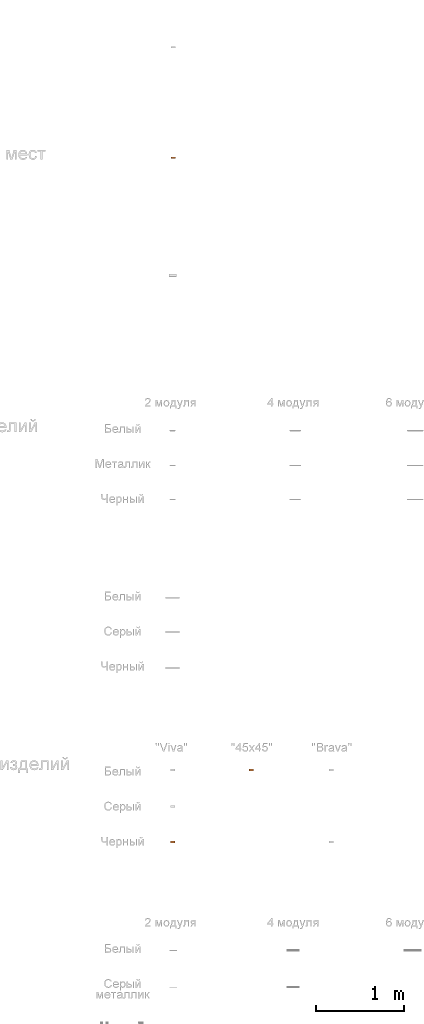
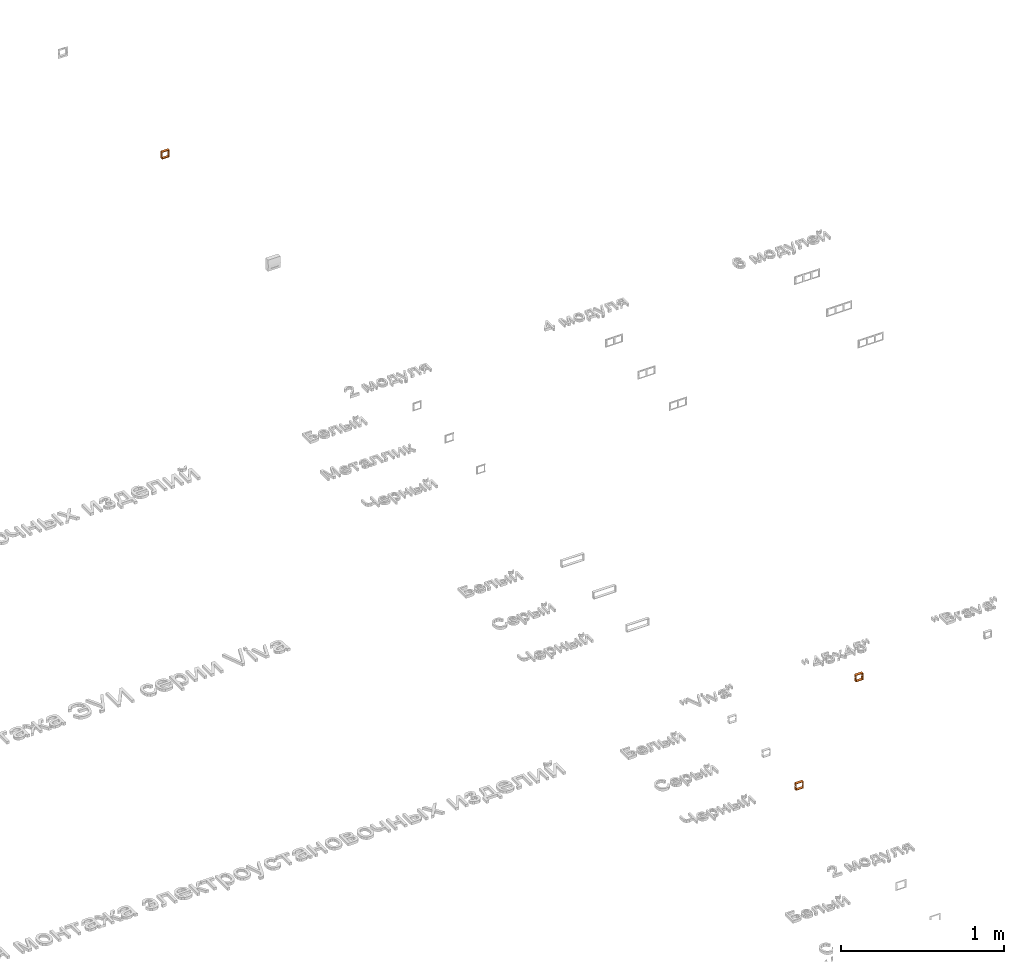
# One storey, part 74 of 87: 3 proxies.
"""IFC2X3 building model written with IfcOpenShell, lengths in millimetres."""

from ifc_helpers import new_model, entity, si_unit, converted_unit, derived_unit, direction, frame, origin, place, context, subcontext, project, spatial, polyline, outline, extrude, faceted_brep, source, transform, mapped, material, type_object, type_shapes, element, save


model = new_model("IFC2X3")

# Units and contexts
model_context = context("Model", 3, precision=0.01, world=origin(), true_north=direction((6.12303176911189e-17, 1.0)))
body_context = subcontext(model_context, "Body", "Model", "MODEL_VIEW")
ifc_project = project(units=[si_unit("LENGTHUNIT", "METRE", prefix="MILLI"), si_unit("AREAUNIT", "SQUARE_METRE"), si_unit("VOLUMEUNIT", "CUBIC_METRE"), converted_unit("PLANEANGLEUNIT", "DEGREE", entity("IfcRatioMeasure", 0.0174532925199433), si_unit("PLANEANGLEUNIT", "RADIAN"), dimensions=[0, 0, 0, 0, 0, 0, 0]), si_unit("MASSUNIT", "GRAM", prefix="KILO"), derived_unit("MASSDENSITYUNIT", [(si_unit("MASSUNIT", "GRAM", prefix="KILO"), 1), (si_unit("LENGTHUNIT", "METRE"), -3)]), si_unit("TIMEUNIT", "SECOND"), si_unit("FREQUENCYUNIT", "HERTZ"), si_unit("THERMODYNAMICTEMPERATUREUNIT", "DEGREE_CELSIUS"), derived_unit("THERMALTRANSMITTANCEUNIT", [(si_unit("MASSUNIT", "GRAM", prefix="KILO"), 1), (si_unit("THERMODYNAMICTEMPERATUREUNIT", "KELVIN"), -1), (si_unit("TIMEUNIT", "SECOND"), -3)]), derived_unit("VOLUMETRICFLOWRATEUNIT", [(si_unit("LENGTHUNIT", "METRE"), 3), (si_unit("TIMEUNIT", "SECOND"), -1)]), si_unit("ELECTRICCURRENTUNIT", "AMPERE"), si_unit("ELECTRICVOLTAGEUNIT", "VOLT"), si_unit("POWERUNIT", "WATT"), si_unit("FORCEUNIT", "NEWTON", prefix="KILO"), si_unit("ILLUMINANCEUNIT", "LUX"), si_unit("LUMINOUSFLUXUNIT", "LUMEN"), si_unit("LUMINOUSINTENSITYUNIT", "CANDELA"), derived_unit("USERDEFINED", [(si_unit("MASSUNIT", "GRAM", prefix="KILO"), -1), (si_unit("LENGTHUNIT", "METRE"), -2), (si_unit("TIMEUNIT", "SECOND"), 3), (si_unit("LUMINOUSFLUXUNIT", "LUMEN"), 1)]), derived_unit("LINEARVELOCITYUNIT", [(si_unit("LENGTHUNIT", "METRE"), 1), (si_unit("TIMEUNIT", "SECOND"), -1)]), si_unit("PRESSUREUNIT", "PASCAL"), derived_unit("USERDEFINED", [(si_unit("LENGTHUNIT", "METRE"), -2), (si_unit("MASSUNIT", "GRAM", prefix="KILO"), 1), (si_unit("TIMEUNIT", "SECOND"), -2)])], contexts=[model_context])

# Site, building, storey
site_placement = place(None, origin())
site = spatial("IfcSite", under=ifc_project, at=site_placement, Name="Default", CompositionType="ELEMENT")
building_placement = place(site_placement, origin())
building = spatial("IfcBuilding", under=site, at=building_placement, Name="Наименование здания", CompositionType="ELEMENT")
storey_placement = place(building_placement, origin())
storey = spatial("IfcBuildingStorey", under=building, at=storey_placement, Name="Этаж 01", CompositionType="ELEMENT", Elevation=0.0)

# Proxies
ifc_material_1 = material(Name="DKC_Пластик_Серо-черный")
building_element_proxy_type_1 = type_object("IfcBuildingElementProxyType", Name="2 модуля", PredefinedType="NOTDEFINED", material=ifc_material_1)
shared_shape_1 = source(origin(), body_context, "Body", "SweptSolid", [
    extrude(outline(polyline([(-26.6499999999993, -26.6499999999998), (26.6499999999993, -26.6499999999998), (26.6499999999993, 26.6499999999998), (-26.6499999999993, 26.6499999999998), (-26.6499999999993, -26.6499999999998)]), holes=[polyline([(-22.6731856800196, -22.6499999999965), (-22.6731856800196, 22.6499999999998), (22.6731856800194, 22.6499999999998), (22.6731856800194, -22.6499999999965), (-22.6731856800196, -22.6499999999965)])]), frame((0.0, 0.0, 0.0), z_axis=(0.0, 1.0, 0.0), x_axis=(0.0, 0.0, -1.0)), (0.0, 0.0, 1.0), 18.1000000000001),
])
type_shapes(building_element_proxy_type_1, [shared_shape_1])
proxy_1_placement = place(storey_placement, frame((77304.4662281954, 1403.81781861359, 0.0)))
element("IfcBuildingElementProxy", 1, at=proxy_1_placement, inside=storey, type_object=building_element_proxy_type_1, material=ifc_material_1, Name="КНС_КаркасДляМонтажаВСистемыОрганизацииРабочихМест_ILF_DKC:2 модуля", ObjectType="2 модуля", context=body_context, shape_type="MappedRepresentation", body=[
    mapped(shared_shape_1, transform((0.0, 0.0, 0.0), scale=1.0)),
])
ifc_material_2 = material(Name="DKC_Пластик_Белый")
building_element_proxy_type_2 = type_object("IfcBuildingElementProxyType", Name="45x45", PredefinedType="NOTDEFINED", material=ifc_material_2)
shared_shape_2 = source(origin(), body_context, "Body", "Brep", [
    faceted_brep([(-22.5, -11.9782074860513, -4.10000215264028), (-22.5, 0.0, -4.10000215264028), (-26.5, 0.0, -4.10000215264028), (-26.5, -11.9782074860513, -4.10000215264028), (26.5, -11.9782074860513, -4.10000215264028), (26.5, 0.0, -4.10000215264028), (22.5, 0.0, -4.10000215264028), (22.5, -11.9782074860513, -4.10000215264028), (-26.5, -13.039366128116, -3.96029796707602), (-22.5, -13.039366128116, -3.96029796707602), (22.5, -13.039366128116, -3.96029796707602), (26.5, -13.039366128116, -3.96029796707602), (-26.5, -14.0282085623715, -3.55070601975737), (-22.5, -14.0282085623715, -3.55070601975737), (22.5, -14.0282085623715, -3.55070601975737), (26.5, -14.0282085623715, -3.55070601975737), (-22.5, -15.5289135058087, -2.05000107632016), (-22.5, -14.8773468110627, -2.8991393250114), (-26.5, -14.8773468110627, -2.89913932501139), (-26.5, -15.5289135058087, -2.05000107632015), (22.5, -14.8773468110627, -2.8991393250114), (22.5, -15.5289135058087, -2.05000107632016), (26.5, -15.5289135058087, -2.05000107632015), (26.5, -14.8773468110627, -2.89913932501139), (-22.5, -15.9385054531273, -1.06115864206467), (-26.5, -15.9385054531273, -1.06115864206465), (22.5, -15.9385054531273, -1.06115864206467), (26.5, -15.9385054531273, -1.06115864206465), (-26.5, -16.0782096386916, 0.0), (-22.5, -16.0782096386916, 0.0), (22.5, -16.0782096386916, 0.0), (26.5, -16.0782096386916, 0.0), (-22.5, -15.9385054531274, 1.06115864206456), (-26.5, -15.9385054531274, 1.06115864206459), (-26.5, -15.5289135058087, 2.0500010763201), (-22.5, -15.5289135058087, 2.05000107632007), (22.5, -15.9385054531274, 1.06115864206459), (22.5, -15.5289135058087, 2.05000107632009), (26.5, -15.5289135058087, 2.05000107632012), (26.5, -15.9385054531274, 1.06115864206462), (-26.5, -14.8773468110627, 2.89913932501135), (-22.5, -14.8773468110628, 2.89913932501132), (22.5, -14.8773468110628, 2.89913932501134), (26.5, -14.8773468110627, 2.89913932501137), (-22.5, -13.0393661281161, 3.96029796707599), (-22.5, -14.0282085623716, 3.55070601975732), (-26.5, -14.0282085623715, 3.55070601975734), (-26.5, -13.039366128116, 3.96029796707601), (22.5, -14.0282085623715, 3.55070601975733), (22.5, -13.039366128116, 3.960297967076), (26.5, -13.039366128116, 3.96029796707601), (26.5, -14.0282085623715, 3.55070601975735), (-22.5, -11.9782074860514, 4.10000215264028), (-26.5, -11.9782074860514, 4.10000215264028), (22.5, -11.9782074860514, 4.10000215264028), (26.5, -11.9782074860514, 4.10000215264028), (-22.5, 0.0, 4.10000215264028), (-26.5, 0.0, 4.10000215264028), (26.5, 0.0, 4.10000215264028), (22.5, 0.0, 4.10000215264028), (22.5, 0.0, -22.5), (22.5, -20.0, -22.5), (22.5, -20.0, 22.4999999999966), (22.5, 0.0, 22.4999999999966), (-22.5, 0.0, 22.4999999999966), (-22.5, -20.0, 22.4999999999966), (-22.5, -20.0, -22.5), (-22.5, 0.0, -22.5), (26.5, 0.0, 25.0), (26.5, -20.0, 25.0), (26.5, -20.0, -25.0), (26.5, 0.0, -25.0), (-26.5, -20.0, 25.0), (-26.5, 0.0, 25.0), (-26.5, 0.0, -25.0), (-26.5, -20.0, -25.0)], [[[0, 1, 2, 3]], [[4, 5, 6, 7]], [[0, 3, 8, 9]], [[7, 10, 11, 4]], [[9, 8, 12, 13]], [[10, 14, 15, 11]], [[16, 17, 18, 19]], [[20, 21, 22, 23]], [[12, 18, 17, 13]], [[14, 20, 23, 15]], [[24, 16, 19, 25]], [[21, 26, 27, 22]], [[28, 29, 24, 25]], [[26, 30, 31, 27]], [[32, 33, 34, 35]], [[36, 37, 38, 39]], [[35, 34, 40, 41]], [[37, 42, 43, 38]], [[44, 45, 46, 47]], [[48, 49, 50, 51]], [[40, 46, 45, 41]], [[42, 48, 51, 43]], [[52, 44, 47, 53]], [[49, 54, 55, 50]], [[32, 29, 28, 33]], [[36, 39, 31, 30]], [[56, 52, 53, 57]], [[58, 55, 54, 59]], [[48, 42, 37, 36, 30, 26, 21, 20, 14, 10, 7, 6, 60, 61, 62, 63, 59, 54, 49]], [[13, 17, 16, 24, 29, 32, 35, 41, 45, 44, 52, 56, 64, 65, 66, 67, 1, 0, 9]], [[64, 63, 62, 65]], [[66, 61, 60, 67]], [[58, 68, 69, 70, 71, 5, 4, 11, 15, 23, 22, 27, 31, 39, 38, 43, 51, 50, 55]], [[72, 73, 57, 53, 47, 46, 40, 34, 33, 28, 25, 19, 18, 12, 8, 3, 2, 74, 75]], [[69, 68, 73, 72]], [[69, 62, 61]], [[62, 69, 65]], [[61, 70, 69]], [[72, 65, 69]], [[65, 72, 66]], [[75, 66, 72]], [[66, 75, 70]], [[70, 61, 66]], [[71, 70, 75, 74]], [[71, 74, 2, 1, 67, 60, 6, 5]], [[58, 59, 63, 64, 56, 57, 73, 68]]]),
])
type_shapes(building_element_proxy_type_2, [shared_shape_2])
proxy_2_placement = place(storey_placement, frame((78196.5462784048, -5568.3806616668, 0.0)))
element("IfcBuildingElementProxy", 2, at=proxy_2_placement, inside=storey, type_object=building_element_proxy_type_2, material=ifc_material_2, Name="КНС_КаркасНа2МодуляДляМонтажаЭлектроустановочныхИзделий_ILF_DKC:45x45", ObjectType="45x45", context=body_context, shape_type="MappedRepresentation", body=[
    mapped(shared_shape_2, transform((0.0, 0.0, 0.0), scale=1.0)),
])
building_element_proxy_type_3 = type_object("IfcBuildingElementProxyType", Name="Viva", PredefinedType="NOTDEFINED", material=ifc_material_1)
shared_shape_3 = source(origin(), body_context, "Body", "Brep", [
    faceted_brep([(-25.0, -11.9782074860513, -4.10000215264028), (-25.0, 0.0, -4.10000215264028), (-26.5, 0.0, -4.10000215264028), (-26.5, -11.9782074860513, -4.10000215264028), (26.5, -11.9782074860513, -4.10000215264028), (26.5, 0.0, -4.10000215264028), (25.0, 0.0, -4.10000215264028), (25.0, -11.9782074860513, -4.10000215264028), (-26.5, -13.039366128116, -3.96029796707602), (-25.0, -13.039366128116, -3.96029796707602), (25.0, -13.039366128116, -3.96029796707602), (26.5, -13.039366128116, -3.96029796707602), (-26.5, -14.0282085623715, -3.55070601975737), (-25.0, -14.0282085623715, -3.55070601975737), (25.0, -14.0282085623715, -3.55070601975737), (26.5, -14.0282085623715, -3.55070601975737), (-25.0, -15.5289135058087, -2.05000107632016), (-25.0, -14.8773468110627, -2.8991393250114), (-26.5, -14.8773468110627, -2.89913932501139), (-26.5, -15.5289135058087, -2.05000107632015), (25.0, -14.8773468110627, -2.8991393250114), (25.0, -15.5289135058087, -2.05000107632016), (26.5, -15.5289135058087, -2.05000107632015), (26.5, -14.8773468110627, -2.89913932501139), (-25.0, -15.9385054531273, -1.06115864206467), (-26.5, -15.9385054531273, -1.06115864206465), (25.0, -15.9385054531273, -1.06115864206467), (26.5, -15.9385054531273, -1.06115864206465), (-26.5, -16.0782096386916, 0.0), (-25.0, -16.0782096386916, 0.0), (25.0, -16.0782096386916, 0.0), (26.5, -16.0782096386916, 0.0), (-25.0, -15.9385054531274, 1.06115864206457), (-26.5, -15.9385054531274, 1.06115864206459), (-26.5, -15.5289135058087, 2.0500010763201), (-25.0, -15.5289135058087, 2.05000107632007), (25.0, -15.9385054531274, 1.06115864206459), (25.0, -15.5289135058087, 2.05000107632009), (26.5, -15.5289135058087, 2.05000107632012), (26.5, -15.9385054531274, 1.06115864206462), (-26.5, -14.8773468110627, 2.89913932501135), (-25.0, -14.8773468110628, 2.89913932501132), (25.0, -14.8773468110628, 2.89913932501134), (26.5, -14.8773468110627, 2.89913932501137), (-25.0, -13.0393661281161, 3.96029796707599), (-25.0, -14.0282085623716, 3.55070601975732), (-26.5, -14.0282085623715, 3.55070601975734), (-26.5, -13.039366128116, 3.96029796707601), (25.0, -14.0282085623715, 3.55070601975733), (25.0, -13.039366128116, 3.960297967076), (26.5, -13.039366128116, 3.96029796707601), (26.5, -14.0282085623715, 3.55070601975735), (-25.0, -11.9782074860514, 4.10000215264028), (-26.5, -11.9782074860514, 4.10000215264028), (25.0, -11.9782074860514, 4.10000215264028), (26.5, -11.9782074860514, 4.10000215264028), (-25.0, 0.0, 4.10000215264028), (-26.5, 0.0, 4.10000215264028), (26.5, 0.0, 4.10000215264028), (25.0, 0.0, 4.10000215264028), (25.0, 0.0, -22.5), (25.0, -20.0, -22.5), (25.0, -20.0, 22.4999999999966), (25.0, 0.0, 22.4999999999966), (-25.0, 0.0, 22.4999999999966), (-25.0, -20.0, 22.4999999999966), (-25.0, -20.0, -22.5), (-25.0, 0.0, -22.5), (26.5, 0.0, 25.0), (26.5, -20.0, 25.0), (26.5, -20.0, -25.0), (26.5, 0.0, -25.0), (-26.5, -20.0, 25.0), (-26.5, 0.0, 25.0), (-26.5, 0.0, -25.0), (-26.5, -20.0, -25.0)], [[[0, 1, 2, 3]], [[4, 5, 6, 7]], [[0, 3, 8, 9]], [[7, 10, 11, 4]], [[9, 8, 12, 13]], [[10, 14, 15, 11]], [[16, 17, 18, 19]], [[20, 21, 22, 23]], [[12, 18, 17, 13]], [[14, 20, 23, 15]], [[24, 16, 19, 25]], [[21, 26, 27, 22]], [[28, 29, 24, 25]], [[26, 30, 31, 27]], [[32, 33, 34, 35]], [[36, 37, 38, 39]], [[35, 34, 40, 41]], [[37, 42, 43, 38]], [[44, 45, 46, 47]], [[48, 49, 50, 51]], [[40, 46, 45, 41]], [[42, 48, 51, 43]], [[52, 44, 47, 53]], [[49, 54, 55, 50]], [[32, 29, 28, 33]], [[39, 31, 30, 36]], [[56, 52, 53, 57]], [[58, 55, 54, 59]], [[48, 42, 37, 36, 30, 26, 21, 20, 14, 10, 7, 6, 60, 61, 62, 63, 59, 54, 49]], [[13, 17, 16, 24, 29, 32, 35, 41, 45, 44, 52, 56, 64, 65, 66, 67, 1, 0, 9]], [[64, 63, 62, 65]], [[66, 61, 60, 67]], [[58, 68, 69, 70, 71, 5, 4, 11, 15, 23, 22, 27, 31, 39, 38, 43, 51, 50, 55]], [[72, 73, 57, 53, 47, 46, 40, 34, 33, 28, 25, 19, 18, 12, 8, 3, 2, 74, 75]], [[69, 68, 73, 72]], [[69, 62, 61]], [[62, 69, 65]], [[61, 70, 69]], [[72, 65, 69]], [[65, 72, 66]], [[75, 66, 72]], [[66, 75, 70]], [[70, 61, 66]], [[71, 70, 75, 74]], [[71, 74, 2, 1, 67, 60, 6, 5]], [[58, 59, 63, 64, 56, 57, 73, 68]]]),
])
type_shapes(building_element_proxy_type_3, [shared_shape_3])
proxy_3_placement = place(storey_placement, frame((77296.5462784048, -6391.33616753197, 0.0)))
element("IfcBuildingElementProxy", 3, at=proxy_3_placement, inside=storey, type_object=building_element_proxy_type_3, material=ifc_material_1, Name="КНС_КаркасНа2МодуляДляМонтажаЭлектроустановочныхИзделий_ILF_DKC:Viva", ObjectType="Viva", context=body_context, shape_type="MappedRepresentation", body=[
    mapped(shared_shape_3, transform((0.0, 0.0, 0.0), scale=1.0)),
])

save(model, "model.ifc")
